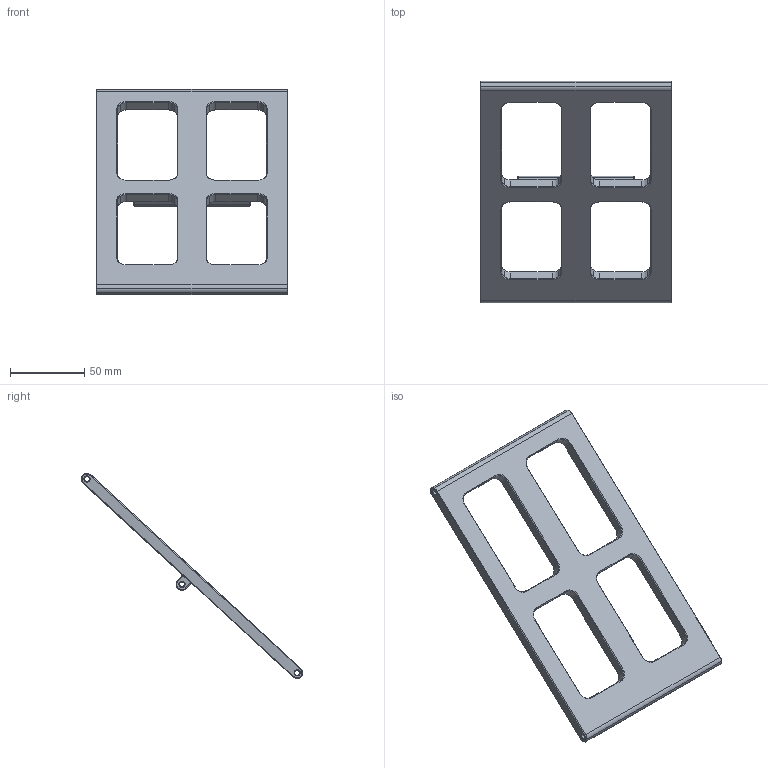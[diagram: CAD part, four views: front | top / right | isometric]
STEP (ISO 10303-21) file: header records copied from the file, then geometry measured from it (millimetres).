
FILE_DESCRIPTION(('STEP AP214'),'1');
FILE_NAME('Tray3.STP','2024-09-09T07:40:07',(' '),(' '),'Spatial InterOp 3D',' ',' ');
FILE_SCHEMA(('AUTOMOTIVE_DESIGN { 1 0 10303 214 1 1 1 1 }'));
Length unit declared in the file: millimetre
Products named in the file (1): Quader
Bounding box: 129 x 148.96 x 137.94 mm (x, y, z)
Volume: 108093.6 mm3; surface area: 42805.6 mm2
Topology: 1 solids, 1 shells, 220 faces, 519 edges, 302 vertices
Faces by surface type: cone 104, plane 64, cylinder 52
Entity records: 6270 total; most frequent: DIRECTION 1163, CARTESIAN_POINT 1070, ORIENTED_EDGE 1038, EDGE_CURVE 519, AXIS2_PLACEMENT_3D 435, VERTEX_POINT 302, LINE 293, VECTOR 293
